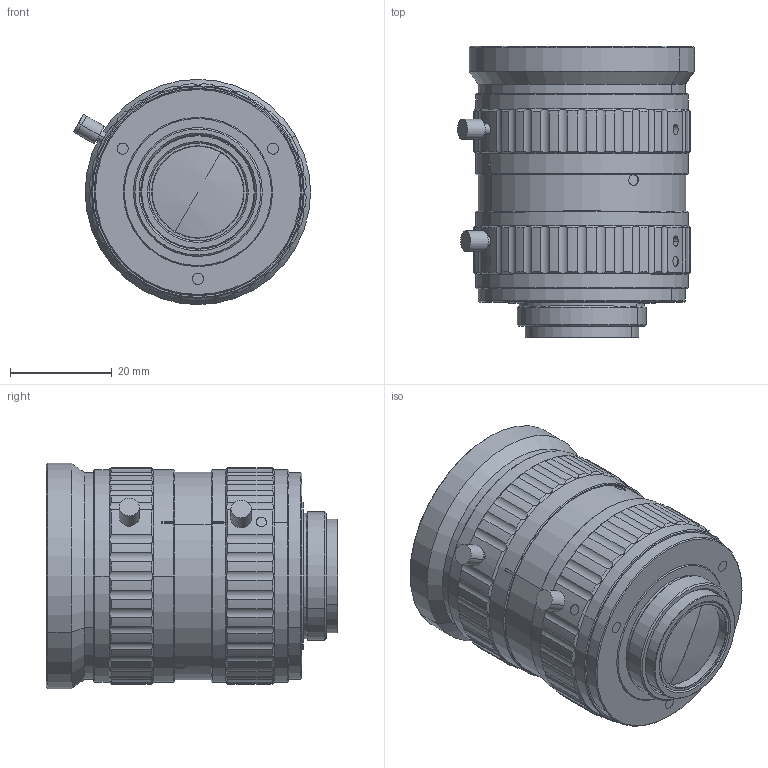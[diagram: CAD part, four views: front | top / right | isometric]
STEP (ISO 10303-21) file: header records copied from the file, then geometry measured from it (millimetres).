
FILE_DESCRIPTION((''),'2;1');
FILE_NAME('200_ASM_ASM','2021-01-19T',('SEELE'),(''),'PRO/ENGINEER BY PARAMETRIC TECHNOLOGY CORPORATION, 2010020','PRO/ENGINEER BY PARAMETRIC TECHNOLOGY CORPORATION, 2010020','');
FILE_SCHEMA(('CONFIG_CONTROL_DESIGN'));
Length unit declared in the file: millimetre
Products named in the file (23): MSBR-52; MSBR-51; MSBR-50; MSBR-49; MSBR-48; MSBR-47; MSBR-46; MSBR-37; MSBR-36; MSBR-35; MSBR-34; MSBR-19; MSBR-18; MSBR-16; MSBR-15; MSBR-14; MSBR-12; MSBR-9; MSBR-6; MSBR-3; MSBR-2; MSBR-1; 200_ASM_ASM
Assembly tree (22 placements, depth 2):
  200_ASM_ASM
    MSBR-52
    MSBR-51
    MSBR-50
    MSBR-49
    MSBR-48
    MSBR-47
    MSBR-46
    MSBR-37
    MSBR-36
    MSBR-35
    MSBR-34
    MSBR-19
    MSBR-18
    MSBR-16
    MSBR-15
    MSBR-14
    MSBR-12
    MSBR-9
    MSBR-6
    MSBR-3
    MSBR-2
    MSBR-1
Bounding box: 46.71 x 57.46 x 44.4 mm (x, y, z)
Volume: 36544.4 mm3; surface area: 41283.1 mm2
Topology: 22 solids, 22 shells, 782 faces, 1953 edges, 1268 vertices
Faces by surface type: cylinder 450, plane 160, cone 137, bspline 27, sphere 8
Entity records: 32678 total; most frequent: CARTESIAN_POINT 13566, DIRECTION 3950, ORIENTED_EDGE 3882, EDGE_CURVE 1941, AXIS2_PLACEMENT_3D 1622, VERTEX_POINT 1266, EDGE_LOOP 917, CIRCLE 822
